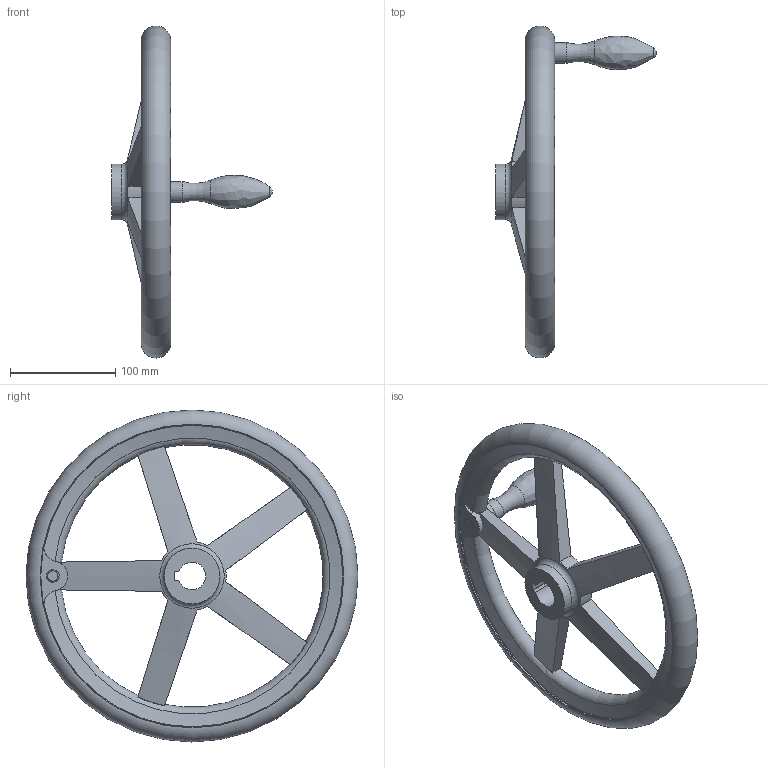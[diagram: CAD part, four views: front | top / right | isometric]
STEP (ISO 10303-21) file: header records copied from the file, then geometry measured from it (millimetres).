
FILE_DESCRIPTION( ( 'STEP AP203' ), '1' );
FILE_NAME( 'C:/Temp/Ganter_Step_05_03_2020/data/1_3/din_950/din_950_k/din_950_k_f/Handwheel DIN 950-GG-315-K26-F.stp', '2020-03-05T10:31:23', ( 'License CC BY-ND 4.0' ), ( 'CADENAS' ), ' ', 'PARTsolutions', ' ' );
FILE_SCHEMA( ( 'CONFIG_CONTROL_DESIGN' ) );
Length unit declared in the file: millimetre
Products named in the file (1): _Handwheel DIN 950-GG-315-K26-F
Bounding box: 152.5 x 315 x 315 mm (x, y, z)
Volume: 854222 mm3; surface area: 143459.3 mm2
Topology: 1 solids, 1 shells, 66 faces, 196 edges, 127 vertices
Faces by surface type: torus 21, cylinder 20, plane 18, cone 5, sphere 1, bspline 1
Full cylindrical faces by diameter (mm): 12 x1, 19.8 x1, 53 x2, 287 x2
Entity records: 2704 total; most frequent: CARTESIAN_POINT 1077, ORIENTED_EDGE 338, DIRECTION 300, EDGE_CURVE 169, AXIS2_PLACEMENT_3D 137, VERTEX_POINT 121, EDGE_LOOP 92, FACE_OUTER_BOUND 81
